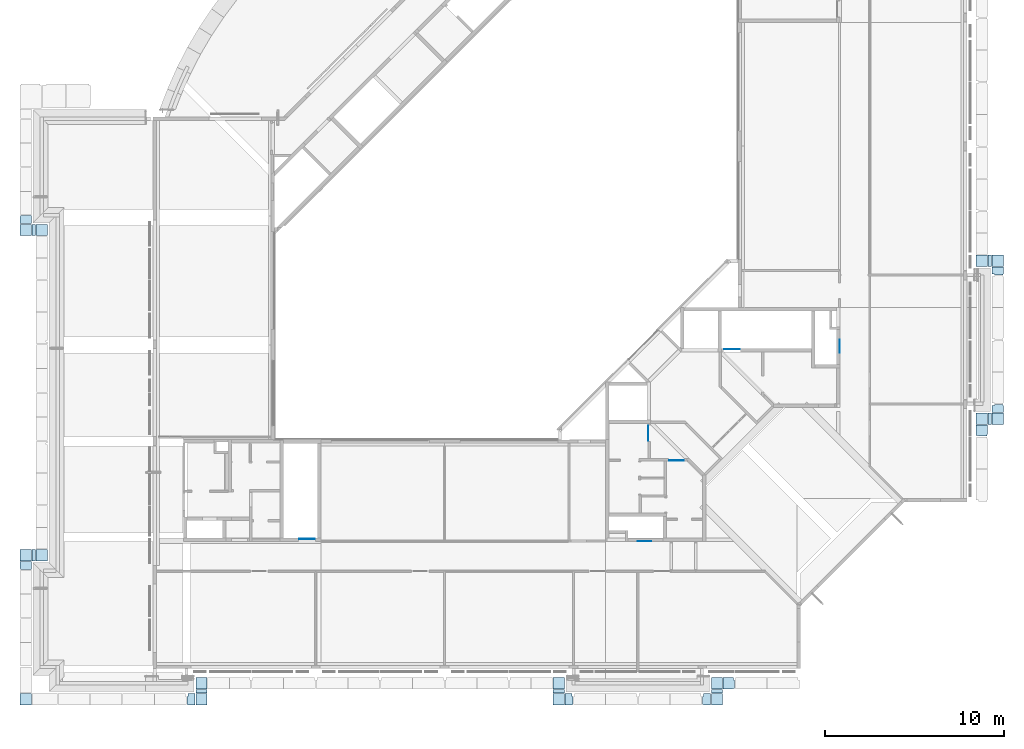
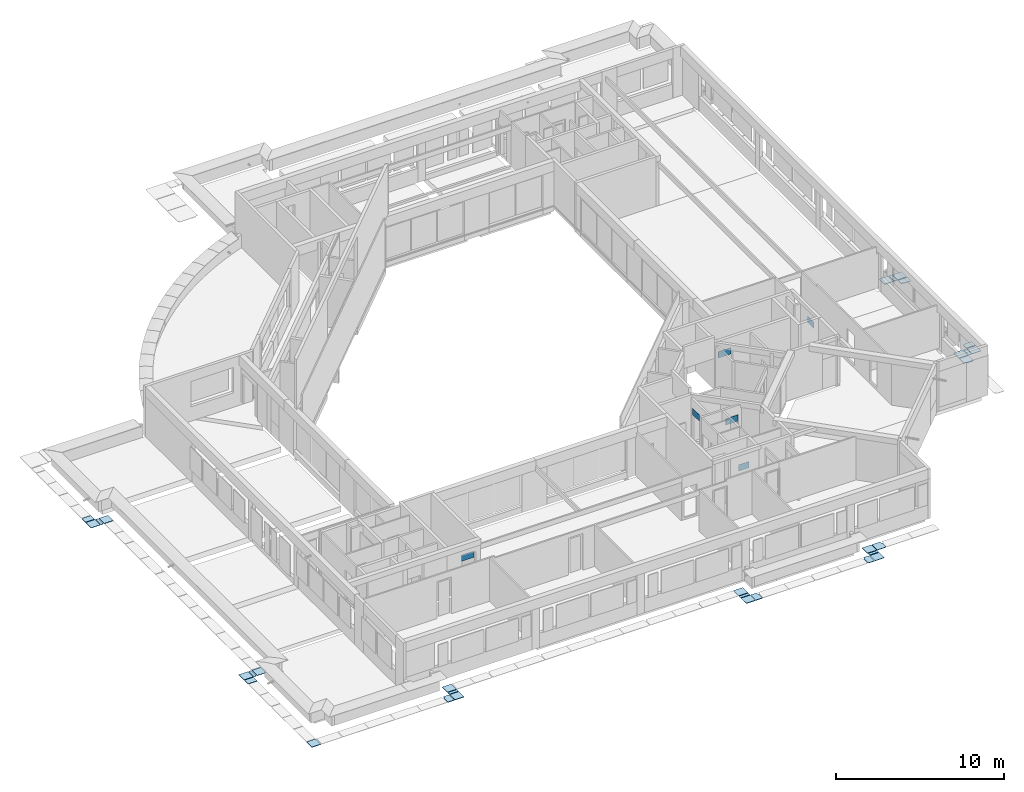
# One storey, part 8 of 38: 31 slabs, 7 plates.
"""IFC4X3_ADD2 building model written with IfcOpenShell, lengths in millimetres."""

from ifc_helpers import new_model, si_unit, direction, frame, frame_2d, origin_with_axes, origin_2d_with_axis, place, context, subcontext, project, spatial, polyline, rectangle, outline, extrude, source, transform, mapped, material, type_object, element, save


model = new_model("IFC4X3_ADD2")

# Units and contexts
model_context = context("Model", 3, precision=1e-05, world=origin_with_axes(), true_north=direction((0.0, 1.0)))
body_context = subcontext(model_context, "Body", "Model", "MODEL_VIEW")
ifc_project = project(units=[si_unit("LENGTHUNIT", "METRE", prefix="MILLI"), si_unit("AREAUNIT", "SQUARE_METRE"), si_unit("VOLUMEUNIT", "CUBIC_METRE"), si_unit("PLANEANGLEUNIT", "RADIAN"), si_unit("TIMEUNIT", "SECOND"), si_unit("MASSUNIT", "GRAM")], contexts=[model_context])

# Site, building, storey
site_placement = place(None, origin_with_axes())
site = spatial("IfcSite", under=ifc_project, at=site_placement, Name="Site", CompositionType="ELEMENT")
building_placement = place(site_placement, origin_with_axes())
building = spatial("IfcBuilding", under=site, at=building_placement, Name="IFC Building Story")
storey_placement = place(building_placement, frame((0.0, 0.0, 10800.0), z_axis=(0.0, 0.0, 1.0), x_axis=(1.0, 0.0, 0.0)))
storey = spatial("IfcBuildingStorey", under=building, at=storey_placement, Name="030", Elevation=10800.0)

# Plates
ifc_material_1 = material(Name="BB_Glas")
shared_shape_1 = source(origin_with_axes(), body_context, "Body", "SweptSolid", [
    extrude(rectangle(XDim=878.000000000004, YDim=454.000000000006, at=origin_2d_with_axis()), frame((0.0, 0.0, -17.0), z_axis=(0.0, 0.0, 1.0), x_axis=(1.0, 0.0, 0.0)), (0.0, 0.0, 1.0), 17.0),
])
plate_1_placement = place(storey_placement, frame((-36780.0, 7168.0, 2284.0), z_axis=(0.0, 1.0, 0.0), x_axis=(-1.0, 0.0, 0.0)))
element("IfcPlate", 1, at=plate_1_placement, inside=storey, material=ifc_material_1, Name="BB_10.10_Binnenbeglazing, rechthoekig_GMO:XX_Geen", ObjectType="BB_10.10_Binnenbeglazing, rechthoekig_GMO:XX_Geen", PredefinedType="USERDEFINED", context=body_context, shape_type="MappedRepresentation", body=[
    mapped(shared_shape_1, transform((0.0, 0.0, 0.0))),
])
shared_shape_2 = source(origin_with_axes(), body_context, "Body", "SweptSolid", [
    extrude(rectangle(XDim=728.000000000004, YDim=454.000000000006, at=origin_2d_with_axis()), frame((0.0, 0.0, -17.0), z_axis=(0.0, 0.0, 1.0), x_axis=(1.0, 0.0, 0.0)), (0.0, 0.0, 1.0), 17.0),
])
for number, where, z_axis, x_axis, name in (
    (2, (-17930.0820395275, 7017.0, 2284.0), (0.0, -1.0, 0.0), (-1.0, 0.0, 0.0), "BB_10.10_Binnenbeglazing, rechthoekig_GMO:XX_Geen"),
    (3, (-7017.0, 17929.7208049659, 2284.0), (1.0, 0.0, 0.0), (0.0, -1.0, 0.0), "BB_10.10_Binnenbeglazing, rechthoekig_GMO:XX_Geen"),
):
    element("IfcPlate", number, at=place(storey_placement, frame(where, z_axis=z_axis, x_axis=x_axis)), inside=storey, material=ifc_material_1, Name=name, ObjectType="BB_10.10_Binnenbeglazing, rechthoekig_GMO:XX_Geen", PredefinedType="USERDEFINED", context=body_context, shape_type="MappedRepresentation", body=[
        mapped(shared_shape_2, transform((0.0, 0.0, 0.0))),
    ])
shared_shape_3 = source(origin_with_axes(), body_context, "Body", "SweptSolid", [
    extrude(rectangle(XDim=828.000000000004, YDim=454.000000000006, at=origin_2d_with_axis()), frame((0.0, 0.0, -17.0), z_axis=(0.0, 0.0, 1.0), x_axis=(1.0, 0.0, 0.0)), (0.0, 0.0, 1.0), 17.0),
])
for number, where, z_axis, x_axis, name in (
    (4, (-17724.0, 13059.5182302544, 2284.0), (-1.0, 0.0, 0.0), (0.0, -1.0, 0.0), "BB_10.10_Binnenbeglazing, rechthoekig_GMO:XX_Geen"),
    (5, (-16147.0, 11527.0, 2284.0), (0.0, -1.0, 0.0), (1.0, 0.0, 0.0), "BB_10.10_Binnenbeglazing, rechthoekig_GMO:XX_Geen"),
    (6, (-16147.0, 11526.0, 2284.0), (0.0, -1.0, 0.0), (1.0, 0.0, 0.0), "BB_10.10_Binnenbeglazing, rechthoekig_GMO:XX_Geen"),
):
    element("IfcPlate", number, at=place(storey_placement, frame(where, z_axis=z_axis, x_axis=x_axis)), inside=storey, material=ifc_material_1, Name=name, ObjectType="BB_10.10_Binnenbeglazing, rechthoekig_GMO:XX_Geen", PredefinedType="USERDEFINED", context=body_context, shape_type="MappedRepresentation", body=[
        mapped(shared_shape_3, transform((0.0, 0.0, 0.0))),
    ])
shared_shape_4 = source(origin_with_axes(), body_context, "Body", "SweptSolid", [
    extrude(rectangle(XDim=878.000000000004, YDim=454.000000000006, at=origin_2d_with_axis()), frame((0.0, 0.0, -17.0), z_axis=(0.0, 0.0, 1.0), x_axis=(1.0, 0.0, 0.0)), (0.0, 0.0, 1.0), 17.0),
])
plate_2_placement = place(storey_placement, frame((-13035.0, 17768.0, 2284.0), z_axis=(0.0, 1.0, 0.0), x_axis=(1.0, 0.0, 0.0)))
element("IfcPlate", 7, at=plate_2_placement, inside=storey, material=ifc_material_1, Name="BB_10.10_Binnenbeglazing, rechthoekig_GMO:XX_Geen", ObjectType="BB_10.10_Binnenbeglazing, rechthoekig_GMO:XX_Geen", PredefinedType="USERDEFINED", context=body_context, shape_type="MappedRepresentation", body=[
    mapped(shared_shape_4, transform((0.0, 0.0, 0.0))),
])

# Slabs
ifc_material_2 = material(Name="Steel, Galvanized - looprooster")
slab_type = type_object("IfcSlabType", Name="Steel, Galvanized - looprooster 30", PredefinedType="FLOOR", material=ifc_material_2)
for number, where, z_axis, x_axis, name in (
    (8, (-52819.9983978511, 24100.00160214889, -350.0), (0.0, 0.0, 1.0), (1.0, 0.0, 0.0), "Floor:GVH - Looprooster 30 mm"),
    (9, (-51919.9983978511, 24100.00160214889, -350.0), (0.0, 0.0, 1.0), (1.0, 0.0, 0.0), "Floor:GVH - Looprooster 30 mm"),
    (10, (-52819.99839785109, 5930.001602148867, -350.0), (0.0, 0.0, 1.0), (1.0, 0.0, 0.0), "Floor:GVH - Looprooster 30 mm"),
    (11, (-51919.9983978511, 5930.000450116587, -350.0), (0.0, 0.0, 1.0), (1.0, 0.0, 0.0), "Floor:GVH - Looprooster 30 mm"),
):
    element("IfcSlab", number, at=place(storey_placement, frame(where, z_axis=z_axis, x_axis=x_axis)), inside=storey, type_object=slab_type, Name=name, ObjectType="Floor:GVH - Looprooster 30 mm", PredefinedType="FLOOR", context=body_context, shape_type="SweptSolid", body=[
        extrude(rectangle(XDim=629.9999999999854, YDim=629.9996566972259, at=origin_2d_with_axis()), frame((314.9999999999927, 314.9998283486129, 0.0), z_axis=(0.0, 0.0, 1.0), x_axis=(1.0, 0.0, 0.0)), (0.0, 0.0, 1.0), 29.99999999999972),
    ])
slab_1_placement = place(storey_placement, frame((-43000.0001068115, -1219.998397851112, -350.0), z_axis=(0.0, 0.0, 1.0), x_axis=(1.0, 0.0, 0.0)))
element("IfcSlab", 12, at=slab_1_placement, inside=storey, type_object=slab_type, Name="Floor:GVH - Looprooster 30 mm", ObjectType="Floor:GVH - Looprooster 30 mm", PredefinedType="FLOOR", context=body_context, shape_type="SweptSolid", body=[
    extrude(rectangle(XDim=629.9999999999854, YDim=629.9996566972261, at=origin_2d_with_axis()), frame((314.9999999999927, 314.9998283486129, 0.0), z_axis=(0.0, 0.0, 1.0), x_axis=(1.0, 0.0, 0.0)), (0.0, 0.0, 1.0), 29.99999999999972),
])
slab_2_placement = place(storey_placement, frame((-42999.40492426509, -2119.998397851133, -350.0), z_axis=(0.0, 0.0, 1.0), x_axis=(1.0, 0.0, 0.0)))
element("IfcSlab", 13, at=slab_2_placement, inside=storey, type_object=slab_type, Name="Floor:GVH - Looprooster 30 mm", ObjectType="Floor:GVH - Looprooster 30 mm", PredefinedType="FLOOR", context=body_context, shape_type="SweptSolid", body=[
    extrude(rectangle(XDim=629.9999999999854, YDim=629.9996566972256, at=origin_2d_with_axis()), frame((314.9999999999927, 314.9998283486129, 0.0), z_axis=(0.0, 0.0, 1.0), x_axis=(1.0, 0.0, 0.0)), (0.0, 0.0, 1.0), 29.99999999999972),
])
slab_3_placement = place(storey_placement, frame((-52154.99839785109, 24730.00125884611, -350.0), z_axis=(0.0, 0.0, 1.0), x_axis=(0.0, -1.0, 0.0)))
element("IfcSlab", 14, at=slab_3_placement, inside=storey, type_object=slab_type, Name="Floor:GVH - Looprooster 30 mm", ObjectType="Floor:GVH - Looprooster 30 mm", PredefinedType="FLOOR", context=body_context, shape_type="SweptSolid", body=[
    extrude(rectangle(XDim=629.9996566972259, YDim=199.9999999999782, at=frame_2d((0.0, 0.0), x_axis=(-1.0, 0.0))), frame((314.9998283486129, 99.99999999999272, 0.0), z_axis=(0.0, 0.0, 1.0), x_axis=(1.0, 0.0, 0.0)), (0.0, 0.0, 1.0), 29.99999999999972),
])
slab_4_placement = place(storey_placement, frame((-52819.99950666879, 24768.50125884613, -350.0), z_axis=(0.0, 0.0, 1.0), x_axis=(1.0, 0.0, 0.0)))
element("IfcSlab", 15, at=slab_4_placement, inside=storey, type_object=slab_type, Name="Floor:GVH - Looprooster 30 mm", ObjectType="Floor:GVH - Looprooster 30 mm", PredefinedType="FLOOR", context=body_context, shape_type="SweptSolid", body=[
    extrude(outline(polyline([(415.0007667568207, 166.166169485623), (415.0007667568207, -280.3325354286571), (-214.9997933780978, -280.3325354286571), (-214.9997933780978, 114.1663659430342), (-200.0009733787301, 114.1663659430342), (-200.0009733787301, 166.166169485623), (415.0007667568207, 166.166169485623)])), frame((214.9997933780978, 280.3325354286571, 0.0), z_axis=(0.0, 0.0, 1.0), x_axis=(1.0, 0.0, 0.0)), (0.0, 0.0, 1.0), 29.99999999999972),
])
slab_5_placement = place(storey_placement, frame((-52154.99839785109, 6560.001258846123, -350.0), z_axis=(0.0, 0.0, 1.0), x_axis=(0.0, -1.0, 0.0)))
element("IfcSlab", 16, at=slab_5_placement, inside=storey, type_object=slab_type, Name="Floor:GVH - Looprooster 30 mm", ObjectType="Floor:GVH - Looprooster 30 mm", PredefinedType="FLOOR", context=body_context, shape_type="SweptSolid", body=[
    extrude(rectangle(XDim=629.9996566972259, YDim=199.9999999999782, at=frame_2d((0.0, 0.0), x_axis=(-1.0, 0.0))), frame((314.9998283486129, 99.99999999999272, 0.0), z_axis=(0.0, 0.0, 1.0), x_axis=(1.0, 0.0, 0.0)), (0.0, 0.0, 1.0), 29.99999999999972),
])
slab_6_placement = place(storey_placement, frame((-43000.00010681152, -1454.99874115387, -350.0), z_axis=(0.0, 0.0, 1.0), x_axis=(1.0, 0.0, 0.0)))
element("IfcSlab", 17, at=slab_6_placement, inside=storey, type_object=slab_type, Name="Floor:GVH - Looprooster 30 mm", ObjectType="Floor:GVH - Looprooster 30 mm", PredefinedType="FLOOR", context=body_context, shape_type="SweptSolid", body=[
    extrude(rectangle(XDim=629.9996566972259, YDim=199.9999999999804, at=origin_2d_with_axis()), frame((314.9998283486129, 99.99999999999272, 0.0), z_axis=(0.0, 0.0, 1.0), x_axis=(1.0, 0.0, 0.0)), (0.0, 0.0, 1.0), 29.99999999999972),
])
slab_7_placement = place(storey_placement, frame((-52819.99839785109, -2119.998397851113, -350.0), z_axis=(0.0, 0.0, 1.0), x_axis=(1.0, 0.0, 0.0)))
element("IfcSlab", 18, at=slab_7_placement, inside=storey, type_object=slab_type, Name="Floor:GVH - Looprooster 30 mm", ObjectType="Floor:GVH - Looprooster 30 mm", PredefinedType="FLOOR", context=body_context, shape_type="SweptSolid", body=[
    extrude(rectangle(XDim=629.9999999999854, YDim=629.9996566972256, at=origin_2d_with_axis()), frame((314.9999999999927, 314.9998283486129, 0.0), z_axis=(0.0, 0.0, 1.0), x_axis=(1.0, 0.0, 0.0)), (0.0, 0.0, 1.0), 29.99999999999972),
])
slab_8_placement = place(storey_placement, frame((-52819.99839785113, 5444.999963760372, -350.0), z_axis=(0.0, 0.0, 1.0), x_axis=(1.0, 0.0, 0.0)))
element("IfcSlab", 19, at=slab_8_placement, inside=storey, type_object=slab_type, Name="Floor:GVH - Looprooster 30 mm", ObjectType="Floor:GVH - Looprooster 30 mm", PredefinedType="FLOOR", context=body_context, shape_type="SweptSolid", body=[
    extrude(outline(polyline([(-200.0015258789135, -166.1679475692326), (-200.0015258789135, -114.1681478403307), (-214.9992370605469, -114.1681478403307), (-214.9992370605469, 280.3360954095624), (415.0007629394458, 280.3360954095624), (415.0007629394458, -166.1679475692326), (-200.0015258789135, -166.1679475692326)])), frame((214.9992370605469, 166.1679475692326, 0.0), z_axis=(0.0, 0.0, 1.0), x_axis=(1.0, 0.0, 0.0)), (0.0, 0.0, 1.0), 29.99999999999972),
])
slab_9_placement = place(storey_placement, frame((-43485.00000000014, -1489.998741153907, -350.0), z_axis=(0.0, 0.0, 1.0), x_axis=(0.0, -1.0, 0.0)))
element("IfcSlab", 20, at=slab_9_placement, inside=storey, type_object=slab_type, Name="Floor:GVH - Looprooster 30 mm", ObjectType="Floor:GVH - Looprooster 30 mm", PredefinedType="FLOOR", context=body_context, shape_type="SweptSolid", body=[
    extrude(outline(polyline([(282.4992180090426, -85.6255216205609), (267.4995613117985, -85.6255216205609), (267.4995613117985, -137.6255578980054), (-202.4983406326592, -137.6255578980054), (-202.4983406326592, -85.62381269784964), (-347.5004386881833, -85.62381269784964), (-347.5004386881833, 308.8748922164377), (282.4992180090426, 308.8748922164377), (282.4992180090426, -85.6255216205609)])), frame((347.5004386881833, 137.6255578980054, 0.0), z_axis=(0.0, 0.0, 1.0), x_axis=(1.0, 0.0, 0.0)), (0.0, 0.0, 1.0), 29.99999999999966),
])
slab_10_placement = place(storey_placement, frame((-23029.99954988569, -589.998741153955, -350.0), z_axis=(0.0, 0.0, 1.0), x_axis=(0.0, -1.0, 0.0)))
element("IfcSlab", 21, at=slab_10_placement, inside=storey, type_object=slab_type, Name="Floor:GVH - Looprooster 30 mm", ObjectType="Floor:GVH - Looprooster 30 mm", PredefinedType="FLOOR", context=body_context, shape_type="SweptSolid", body=[
    extrude(rectangle(XDim=629.9996566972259, YDim=629.9996566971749, at=frame_2d((0.0, 0.0), x_axis=(-1.0, 0.0))), frame((314.9998283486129, 314.9998283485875, 0.0), z_axis=(0.0, 0.0, 1.0), x_axis=(1.0, 0.0, 0.0)), (0.0, 0.0, 1.0), 29.99999999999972),
])
slab_11_placement = place(storey_placement, frame((-23029.99954988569, -1489.998741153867, -350.0), z_axis=(0.0, 0.0, 1.0), x_axis=(0.0, -1.0, 0.0)))
element("IfcSlab", 22, at=slab_11_placement, inside=storey, type_object=slab_type, Name="Floor:GVH - Looprooster 30 mm", ObjectType="Floor:GVH - Looprooster 30 mm", PredefinedType="FLOOR", context=body_context, shape_type="SweptSolid", body=[
    extrude(rectangle(XDim=629.9996566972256, YDim=629.9996566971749, at=frame_2d((0.0, 0.0), x_axis=(-1.0, 0.0))), frame((314.9998283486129, 314.9998283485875, 0.0), z_axis=(0.0, 0.0, 1.0), x_axis=(1.0, 0.0, 0.0)), (0.0, 0.0, 1.0), 29.99999999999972),
])
for number, where, z_axis, x_axis, name in (
    (23, (-23030.00133132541, -1454.99874115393, -350.0), (0.0, 0.0, 1.0), (1.0, 0.0, 0.0), "Floor:GVH - Looprooster 30 mm"),
    (24, (-14200.00010681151, -1454.99874115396, -350.0), (0.0, 0.0, 1.0), (1.0, 0.0, 0.0), "Floor:GVH - Looprooster 30 mm"),
):
    element("IfcSlab", number, at=place(storey_placement, frame(where, z_axis=z_axis, x_axis=x_axis)), inside=storey, type_object=slab_type, Name=name, ObjectType="Floor:GVH - Looprooster 30 mm", PredefinedType="FLOOR", context=body_context, shape_type="SweptSolid", body=[
        extrude(rectangle(XDim=629.9996566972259, YDim=199.9999999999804, at=origin_2d_with_axis()), frame((314.9998283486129, 99.99999999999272, 0.0), z_axis=(0.0, 0.0, 1.0), x_axis=(1.0, 0.0, 0.0)), (0.0, 0.0, 1.0), 29.99999999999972),
    ])
slab_12_placement = place(storey_placement, frame((-13531.50010681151, -589.998741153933, -350.0), z_axis=(0.0, 0.0, 1.0), x_axis=(0.0, -1.0, 0.0)))
element("IfcSlab", 25, at=slab_12_placement, inside=storey, type_object=slab_type, Name="Floor:GVH - Looprooster 30 mm", ObjectType="Floor:GVH - Looprooster 30 mm", PredefinedType="FLOOR", context=body_context, shape_type="SweptSolid", body=[
    extrude(outline(polyline([(267.499561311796, 101.8750357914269), (282.499218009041, 101.8750357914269), (282.499218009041, -427.6251072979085), (-347.5004386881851, -427.6251072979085), (-347.5004386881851, 136.8750357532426), (-202.4983406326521, 136.8750357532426), (-202.4983406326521, 188.875035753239), (267.499561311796, 188.875035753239), (267.499561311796, 101.8750357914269)])), frame((347.5004386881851, 427.6251072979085, 0.0), z_axis=(0.0, 0.0, 1.0), x_axis=(1.0, 0.0, 0.0)), (0.0, 0.0, 1.0), 29.99999999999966),
])
slab_13_placement = place(storey_placement, frame((-14200.00010681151, -589.998741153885, -350.0), z_axis=(0.0, 0.0, 1.0), x_axis=(0.0, -1.0, 0.0)))
element("IfcSlab", 26, at=slab_13_placement, inside=storey, type_object=slab_type, Name="Floor:GVH - Looprooster 30 mm", ObjectType="Floor:GVH - Looprooster 30 mm", PredefinedType="FLOOR", context=body_context, shape_type="SweptSolid", body=[
    extrude(rectangle(XDim=629.999999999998, YDim=629.9996566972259, at=frame_2d((0.0, 0.0), x_axis=(-1.0, 0.0))), frame((314.9999999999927, 314.9998283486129, 0.0), z_axis=(0.0, 0.0, 1.0), x_axis=(1.0, 0.0, 0.0)), (0.0, 0.0, 1.0), 29.99999999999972),
])
slab_14_placement = place(storey_placement, frame((-14200.00010681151, -1489.998741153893, -350.0), z_axis=(0.0, 0.0, 1.0), x_axis=(0.0, -1.0, 0.0)))
element("IfcSlab", 27, at=slab_14_placement, inside=storey, type_object=slab_type, Name="Floor:GVH - Looprooster 30 mm", ObjectType="Floor:GVH - Looprooster 30 mm", PredefinedType="FLOOR", context=body_context, shape_type="SweptSolid", body=[
    extrude(rectangle(XDim=629.9999999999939, YDim=629.9996566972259, at=frame_2d((0.0, 0.0), x_axis=(-1.0, 0.0))), frame((314.9999999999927, 314.9998283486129, 0.0), z_axis=(0.0, 0.0, 1.0), x_axis=(1.0, 0.0, 0.0)), (0.0, 0.0, 1.0), 29.99999999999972),
])
slab_15_placement = place(storey_placement, frame((-14684.99996372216, -1489.998741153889, -350.0), z_axis=(0.0, 0.0, 1.0), x_axis=(0.0, -1.0, 0.0)))
element("IfcSlab", 28, at=slab_15_placement, inside=storey, type_object=slab_type, Name="Floor:GVH - Looprooster 30 mm", ObjectType="Floor:GVH - Looprooster 30 mm", PredefinedType="FLOOR", context=body_context, shape_type="SweptSolid", body=[
    extrude(outline(polyline([(282.4994773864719, -85.62467620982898), (267.4994773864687, -85.62467620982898), (267.4994773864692, -137.6246762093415), (-202.4984321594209, -137.6246762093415), (-202.4984321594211, -85.62467624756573), (-347.5005226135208, -85.62467624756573), (-347.5005226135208, 308.8740286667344), (282.4994773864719, 308.8740286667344), (282.4994773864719, -85.62467620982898)])), frame((347.5005226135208, 137.6246762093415, 0.0), z_axis=(0.0, 0.0, 1.0), x_axis=(1.0, 0.0, 0.0)), (0.0, 0.0, 1.0), 29.99999999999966),
])
slab_16_placement = place(storey_placement, frame((-22361.49874115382, -1489.998741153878, -350.0), z_axis=(0.0, 0.0, 1.0), x_axis=(0.0, -1.0, 0.0)))
element("IfcSlab", 29, at=slab_16_placement, inside=storey, type_object=slab_type, Name="Floor:GVH - Looprooster 30 mm", ObjectType="Floor:GVH - Looprooster 30 mm", PredefinedType="FLOOR", context=body_context, shape_type="SweptSolid", body=[
    extrude(outline(polyline([(267.4994773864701, 85.62473062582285), (282.4994773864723, 85.62473062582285), (282.4994773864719, -308.8740468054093), (-347.5005226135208, -308.8740468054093), (-347.5005226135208, 85.62465810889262), (-202.4984321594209, 85.62465810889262), (-202.49843215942, 137.624658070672), (267.4994773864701, 137.624658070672), (267.4994773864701, 85.62473062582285)])), frame((347.5005226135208, 308.8740468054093, 0.0), z_axis=(0.0, 0.0, 1.0), x_axis=(1.0, 0.0, 0.0)), (0.0, 0.0, 1.0), 29.99999999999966),
])
slab_17_placement = place(storey_placement, frame((589.9987411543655, 22379.50160214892, -350.0), z_axis=(0.0, 0.0, 1.0), x_axis=(1.0, 0.0, 0.0)))
element("IfcSlab", 30, at=slab_17_placement, inside=storey, type_object=slab_type, Name="Floor:GVH - Looprooster 30 mm", ObjectType="Floor:GVH - Looprooster 30 mm", PredefinedType="FLOOR", context=body_context, shape_type="SweptSolid", body=[
    extrude(rectangle(XDim=629.9996566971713, YDim=629.9996566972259, at=frame_2d((0.0, 0.0), x_axis=(0.0, 1.0))), frame((314.9998283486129, 314.9998283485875, 0.0), z_axis=(0.0, 0.0, 1.0), x_axis=(1.0, 0.0, 0.0)), (0.0, 0.0, 1.0), 29.99999999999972),
])
slab_18_placement = place(storey_placement, frame((1489.998741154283, 22379.50160214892, -350.0), z_axis=(0.0, 0.0, 1.0), x_axis=(1.0, 0.0, 0.0)))
element("IfcSlab", 31, at=slab_18_placement, inside=storey, type_object=slab_type, Name="Floor:GVH - Looprooster 30 mm", ObjectType="Floor:GVH - Looprooster 30 mm", PredefinedType="FLOOR", context=body_context, shape_type="SweptSolid", body=[
    extrude(rectangle(XDim=629.9996566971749, YDim=629.9996566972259, at=frame_2d((0.0, 0.0), x_axis=(0.0, 1.0))), frame((314.9998283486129, 314.9998283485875, 0.0), z_axis=(0.0, 0.0, 1.0), x_axis=(1.0, 0.0, 0.0)), (0.0, 0.0, 1.0), 29.99999999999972),
])
slab_19_placement = place(storey_placement, frame((1254.99874115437, 23009.50304028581, -350.0), z_axis=(0.0, 0.0, 1.0), x_axis=(0.0, -1.0, 0.0)))
element("IfcSlab", 32, at=slab_19_placement, inside=storey, type_object=slab_type, Name="Floor:GVH - Looprooster 30 mm", ObjectType="Floor:GVH - Looprooster 30 mm", PredefinedType="FLOOR", context=body_context, shape_type="SweptSolid", body=[
    extrude(rectangle(XDim=629.9996566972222, YDim=199.9999999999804, at=frame_2d((0.0, 0.0), x_axis=(-1.0, 0.0))), frame((314.9998283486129, 99.99999999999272, 0.0), z_axis=(0.0, 0.0, 1.0), x_axis=(1.0, 0.0, 0.0)), (0.0, 0.0, 1.0), 29.99999999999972),
])
slab_20_placement = place(storey_placement, frame((1254.99874115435, 14180.00010681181, -350.0), z_axis=(0.0, 0.0, 1.0), x_axis=(0.0, -1.0, 0.0)))
element("IfcSlab", 33, at=slab_20_placement, inside=storey, type_object=slab_type, Name="Floor:GVH - Looprooster 30 mm", ObjectType="Floor:GVH - Looprooster 30 mm", PredefinedType="FLOOR", context=body_context, shape_type="SweptSolid", body=[
    extrude(rectangle(XDim=629.9996566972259, YDim=199.9999999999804, at=frame_2d((0.0, 0.0), x_axis=(-1.0, 0.0))), frame((314.9998283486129, 99.99999999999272, 0.0), z_axis=(0.0, 0.0, 1.0), x_axis=(1.0, 0.0, 0.0)), (0.0, 0.0, 1.0), 29.99999999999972),
])
slab_21_placement = place(storey_placement, frame((589.998741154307, 12894.99996376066, -350.0), z_axis=(0.0, 0.0, 1.0), x_axis=(1.0, 0.0, 0.0)))
element("IfcSlab", 34, at=slab_21_placement, inside=storey, type_object=slab_type, Name="Floor:GVH - Looprooster 30 mm", ObjectType="Floor:GVH - Looprooster 30 mm", PredefinedType="FLOOR", context=body_context, shape_type="SweptSolid", body=[
    extrude(outline(polyline([(-202.4983406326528, -188.8750357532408), (-202.4983406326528, -136.8750357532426), (-347.5004386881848, -136.8750357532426), (-347.5004386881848, 427.6251072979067), (282.4992180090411, 427.6251072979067), (282.4992180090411, -101.8750357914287), (267.4995613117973, -101.8750357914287), (267.4995613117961, -188.8750357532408), (-202.4983406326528, -188.8750357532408)])), frame((347.5004386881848, 188.8750357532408, 0.0), z_axis=(0.0, 0.0, 1.0), x_axis=(1.0, 0.0, 0.0)), (0.0, 0.0, 1.0), 29.99999999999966),
])
slab_22_placement = place(storey_placement, frame((589.998741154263, 13550.00045011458, -350.0), z_axis=(0.0, 0.0, 1.0), x_axis=(1.0, 0.0, 0.0)))
element("IfcSlab", 35, at=slab_22_placement, inside=storey, type_object=slab_type, Name="Floor:GVH - Looprooster 30 mm", ObjectType="Floor:GVH - Looprooster 30 mm", PredefinedType="FLOOR", context=body_context, shape_type="SweptSolid", body=[
    extrude(rectangle(XDim=629.9999999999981, YDim=629.9996566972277, at=origin_2d_with_axis()), frame((314.9999999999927, 314.9998283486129, 0.0), z_axis=(0.0, 0.0, 1.0), x_axis=(1.0, 0.0, 0.0)), (0.0, 0.0, 1.0), 29.99999999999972),
])
slab_23_placement = place(storey_placement, frame((1489.998741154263, 13550.00045011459, -350.0), z_axis=(0.0, 0.0, 1.0), x_axis=(1.0, 0.0, 0.0)))
element("IfcSlab", 36, at=slab_23_placement, inside=storey, type_object=slab_type, Name="Floor:GVH - Looprooster 30 mm", ObjectType="Floor:GVH - Looprooster 30 mm", PredefinedType="FLOOR", context=body_context, shape_type="SweptSolid", body=[
    extrude(rectangle(XDim=629.9999999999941, YDim=629.9996566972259, at=origin_2d_with_axis()), frame((314.9999999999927, 314.9998283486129, 0.0), z_axis=(0.0, 0.0, 1.0), x_axis=(1.0, 0.0, 0.0)), (0.0, 0.0, 1.0), 29.99999999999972),
])
slab_24_placement = place(storey_placement, frame((1489.998741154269, 14218.50125884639, -350.0), z_axis=(0.0, 0.0, 1.0), x_axis=(1.0, 0.0, 0.0)))
element("IfcSlab", 37, at=slab_24_placement, inside=storey, type_object=slab_type, Name="Floor:GVH - Looprooster 30 mm", ObjectType="Floor:GVH - Looprooster 30 mm", PredefinedType="FLOOR", context=body_context, shape_type="SweptSolid", body=[
    extrude(outline(polyline([(282.4994773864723, 85.62491818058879), (282.4994773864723, -308.8741093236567), (-347.5005226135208, -308.8741093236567), (-347.5005226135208, 85.62459559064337), (-202.4984321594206, 85.62459559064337), (-202.4984321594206, 137.6245955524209), (267.4994773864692, 137.6245955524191), (267.4994773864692, 85.62491818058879), (282.4994773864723, 85.62491818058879)])), frame((347.5005226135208, 308.8741093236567, 0.0), z_axis=(0.0, 0.0, 1.0), x_axis=(1.0, 0.0, 0.0)), (0.0, 0.0, 1.0), 29.99999999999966),
])
slab_25_placement = place(storey_placement, frame((1489.998741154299, 21895.00003627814, -350.0), z_axis=(0.0, 0.0, 1.0), x_axis=(1.0, 0.0, 0.0)))
element("IfcSlab", 38, at=slab_25_placement, inside=storey, type_object=slab_type, Name="Floor:GVH - Looprooster 30 mm", ObjectType="Floor:GVH - Looprooster 30 mm", PredefinedType="FLOOR", context=body_context, shape_type="SweptSolid", body=[
    extrude(outline(polyline([(-202.4984321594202, -137.6246166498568), (-202.4984321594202, -85.62461668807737), (-347.5005226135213, -85.62461668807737), (-347.5005226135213, 308.8740882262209), (282.4994773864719, 308.8740882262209), (282.4994773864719, -85.62485488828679), (267.4994773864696, -85.62485488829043), (267.4994773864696, -137.6246166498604), (-202.4984321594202, -137.6246166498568)])), frame((347.5005226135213, 137.6246166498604, 0.0), z_axis=(0.0, 0.0, 1.0), x_axis=(1.0, 0.0, 0.0)), (0.0, 0.0, 1.0), 29.99999999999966),
])

save(model, "model.ifc")
